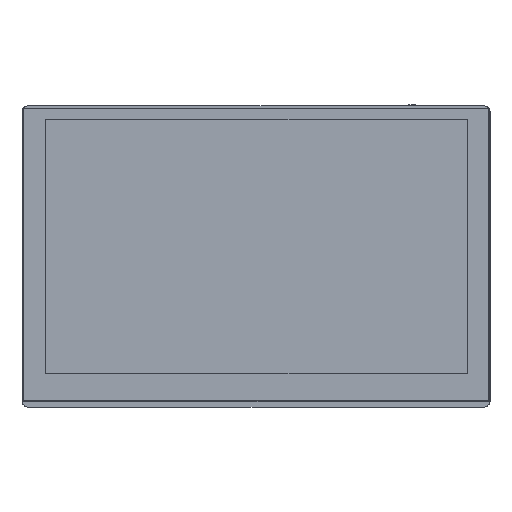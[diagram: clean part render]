
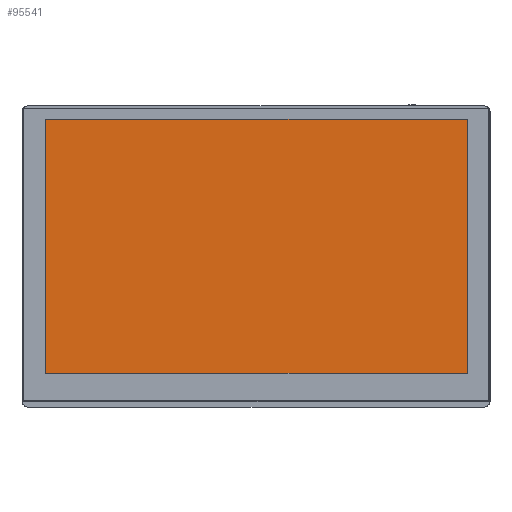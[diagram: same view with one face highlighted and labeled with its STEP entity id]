
A CAD part, top view. The second image highlights one B-rep face of the part: STEP entity #95541.
In plain terms, the highlighted planar face has unit normal (0, 0, 1).
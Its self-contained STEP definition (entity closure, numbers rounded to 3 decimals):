
#7720=ORIENTED_EDGE('',*,*,#45396,.F.);
#7721=ORIENTED_EDGE('',*,*,#45406,.F.);
#7722=ORIENTED_EDGE('',*,*,#45403,.F.);
#7723=ORIENTED_EDGE('',*,*,#45400,.F.);
#45396=EDGE_CURVE('',#64246,#64247,#130939,.T.);
#45400=EDGE_CURVE('',#64247,#64250,#130943,.T.);
#45403=EDGE_CURVE('',#64250,#64252,#130946,.T.);
#45406=EDGE_CURVE('',#64252,#64246,#130949,.T.);
#64246=VERTEX_POINT('',#195723);
#64247=VERTEX_POINT('',#195724);
#64250=VERTEX_POINT('',#195732);
#64252=VERTEX_POINT('',#195738);
#76371=EDGE_LOOP('',(#7720,#7721,#7722,#7723));
#83745=FACE_BOUND('',#76371,.T.);
#91119=PLANE('',#159355);
#95541=ADVANCED_FACE('',(#83745),#91119,.F.);
#130939=LINE('',#195722,#145133);
#130943=LINE('',#195731,#145137);
#130946=LINE('',#195737,#145140);
#130949=LINE('',#195743,#145143);
#145133=VECTOR('',#166791,1000.);
#145137=VECTOR('',#166797,1000.);
#145140=VECTOR('',#166802,1000.);
#145143=VECTOR('',#166807,1000.);
#159355=AXIS2_PLACEMENT_3D('',#195746,#166811,#166812);
#166791=DIRECTION('',(1.,0.,0.));
#166797=DIRECTION('',(0.,-1.,0.));
#166802=DIRECTION('',(-1.,0.,0.));
#166807=DIRECTION('',(0.,1.,0.));
#166811=DIRECTION('',(0.,0.,-1.));
#166812=DIRECTION('',(-1.,0.,0.));
#195722=CARTESIAN_POINT('',(-54.5,32.9,0.001));
#195723=CARTESIAN_POINT('',(-54.5,32.9,0.001));
#195724=CARTESIAN_POINT('',(54.5,32.9,0.001));
#195731=CARTESIAN_POINT('',(54.5,32.9,0.001));
#195732=CARTESIAN_POINT('',(54.5,-32.9,0.001));
#195737=CARTESIAN_POINT('',(54.5,-32.9,0.001));
#195738=CARTESIAN_POINT('',(-54.5,-32.9,0.001));
#195743=CARTESIAN_POINT('',(-54.5,-32.9,0.001));
#195746=CARTESIAN_POINT('',(0.,0.,0.001));
